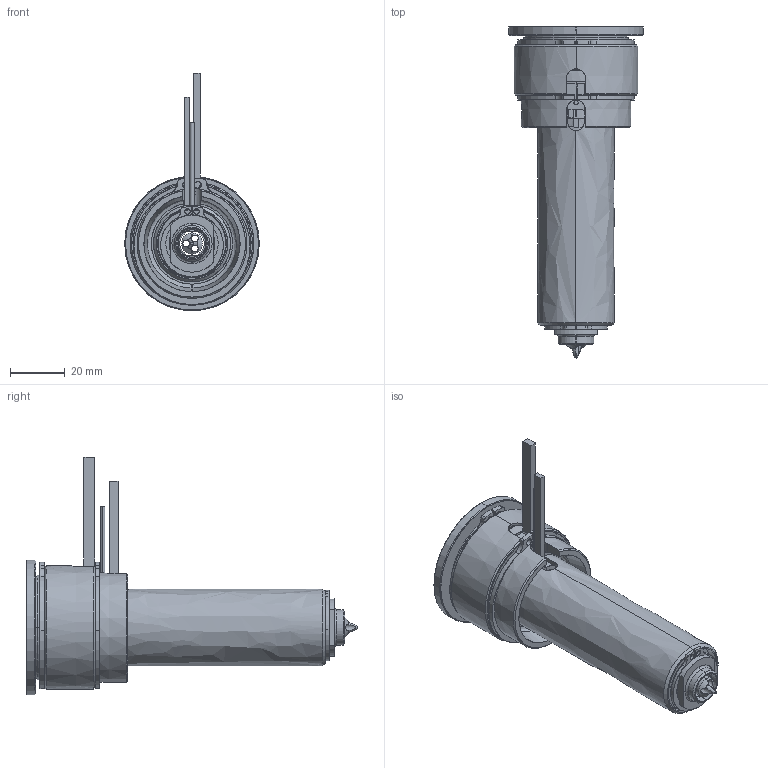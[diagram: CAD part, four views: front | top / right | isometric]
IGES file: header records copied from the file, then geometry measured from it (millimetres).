
Start section: SolidWorks IGES file using analytic representation for surfaces
Global section: file name: C:\Documents and Settings\ws-20\Desktop\TEM\UGEP4502-S-A-0 [Øf-0.88 ØC-09].IGS; native system: SolidWorks 2012; preprocessor: SolidWorks 2012; author: ws-20; date: 120424.085446; units: millimetre
Bounding box: 49 x 120.8 x 86.5 mm (x, y, z)
Surface area: 48156.9 mm2 (no closed solid volume)
Topology: 0 solids, 0 shells, 186 faces, 3516 edges, 3516 vertices
Faces by surface type: revolution 120, bspline 66
